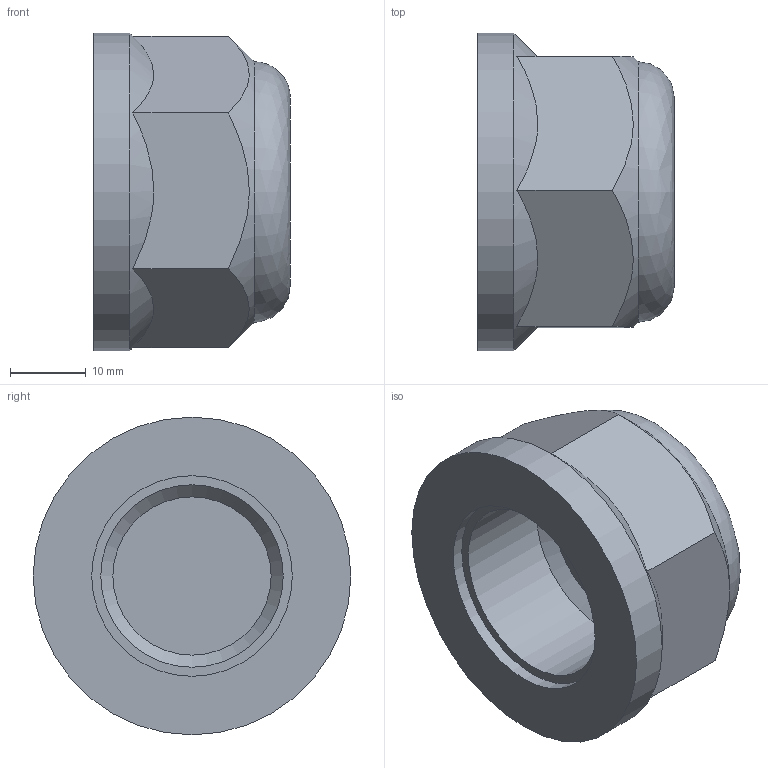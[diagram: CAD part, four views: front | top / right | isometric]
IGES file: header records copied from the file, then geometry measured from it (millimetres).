
Global section: file name: 050707007_0507070070A.ipt; native system: Autodesk Inventor 2015; preprocessor: unknown; author: KIM; date: 20170618.093304; units: millimetre
Bounding box: 26 x 42 x 42 mm (x, y, z)
Volume: 21530.3 mm3; surface area: 6589.1 mm2
Topology: 1 solids, 1 shells, 17 faces, 55 edges, 42 vertices
Faces by surface type: plane 10, revolution 4, cone 2, cylinder 1
Full cylindrical faces by diameter (mm): 42 x1
